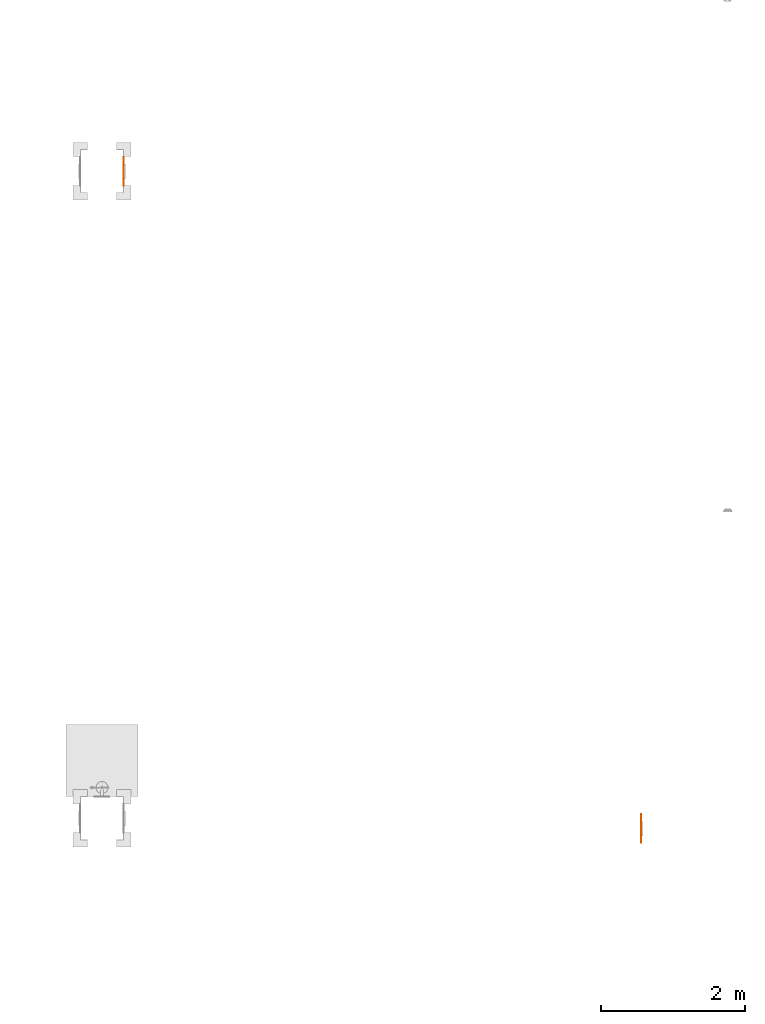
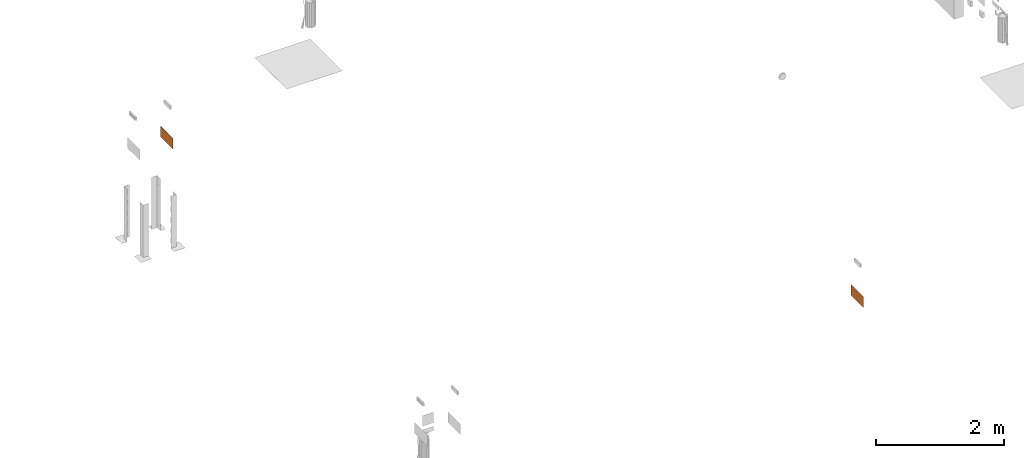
# One storey, part 95 of 119: 2 proxies.
"""IFC2X3 building model written with IfcOpenShell, lengths in metres."""

from ifc_helpers import new_model, entity, si_unit, converted_unit, derived_unit, direction, frame, frame_2d, origin, origin_2d_with_axis, place, context, subcontext, project, spatial, polyline, circle_curve, parameter, trimmed, segment, composite_curve, rectangle, outline, extrude, source, transform, mapped, material, material_list, type_object, type_shapes, element, save


model = new_model("IFC2X3")

# Units and contexts
model_context = context("Model", 3, precision=1e-05, world=origin(), true_north=direction((6.12303176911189e-17, 1.0)))
body_context = subcontext(model_context, "Body", "Model", "MODEL_VIEW")
ifc_project = project(units=[si_unit("LENGTHUNIT", "METRE"), si_unit("AREAUNIT", "SQUARE_METRE"), si_unit("VOLUMEUNIT", "CUBIC_METRE"), converted_unit("PLANEANGLEUNIT", "DEGREE", entity("IfcRatioMeasure", 0.0174532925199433), si_unit("PLANEANGLEUNIT", "RADIAN"), dimensions=[0, 0, 0, 0, 0, 0, 0]), si_unit("MASSUNIT", "GRAM", prefix="KILO"), derived_unit("MASSDENSITYUNIT", [(si_unit("MASSUNIT", "GRAM", prefix="KILO"), 1), (si_unit("LENGTHUNIT", "METRE"), -3)]), derived_unit("MOMENTOFINERTIAUNIT", [(si_unit("LENGTHUNIT", "METRE"), 4)]), si_unit("TIMEUNIT", "SECOND"), si_unit("FREQUENCYUNIT", "HERTZ"), si_unit("THERMODYNAMICTEMPERATUREUNIT", "DEGREE_CELSIUS"), derived_unit("THERMALTRANSMITTANCEUNIT", [(si_unit("MASSUNIT", "GRAM", prefix="KILO"), 1), (si_unit("THERMODYNAMICTEMPERATUREUNIT", "KELVIN"), -1), (si_unit("TIMEUNIT", "SECOND"), -3)]), derived_unit("VOLUMETRICFLOWRATEUNIT", [(si_unit("LENGTHUNIT", "METRE"), 3), (si_unit("TIMEUNIT", "SECOND"), -1)]), si_unit("ELECTRICCURRENTUNIT", "AMPERE"), si_unit("ELECTRICVOLTAGEUNIT", "VOLT"), si_unit("POWERUNIT", "WATT"), si_unit("FORCEUNIT", "NEWTON", prefix="KILO"), si_unit("ILLUMINANCEUNIT", "LUX"), si_unit("LUMINOUSFLUXUNIT", "LUMEN"), si_unit("LUMINOUSINTENSITYUNIT", "CANDELA"), derived_unit("USERDEFINED", [(si_unit("MASSUNIT", "GRAM", prefix="KILO"), -1), (si_unit("LENGTHUNIT", "METRE"), -2), (si_unit("TIMEUNIT", "SECOND"), 3), (si_unit("LUMINOUSFLUXUNIT", "LUMEN"), 1)]), derived_unit("LINEARVELOCITYUNIT", [(si_unit("LENGTHUNIT", "METRE"), 1), (si_unit("TIMEUNIT", "SECOND"), -1)]), si_unit("PRESSUREUNIT", "PASCAL"), derived_unit("USERDEFINED", [(si_unit("LENGTHUNIT", "METRE"), -2), (si_unit("MASSUNIT", "GRAM", prefix="KILO"), 1), (si_unit("TIMEUNIT", "SECOND"), -2)]), derived_unit("LINEARFORCEUNIT", [(si_unit("MASSUNIT", "GRAM", prefix="KILO"), 1), (si_unit("LENGTHUNIT", "METRE"), 1), (si_unit("TIMEUNIT", "SECOND"), -2), (si_unit("LENGTHUNIT", "METRE"), -1)]), derived_unit("PLANARFORCEUNIT", [(si_unit("MASSUNIT", "GRAM", prefix="KILO"), 1), (si_unit("LENGTHUNIT", "METRE"), 1), (si_unit("TIMEUNIT", "SECOND"), -2), (si_unit("LENGTHUNIT", "METRE"), -2)])], contexts=[model_context])

# Site, building, storey
site_placement = place(None, origin())
site = spatial("IfcSite", under=ifc_project, at=site_placement, Name="Default", CompositionType="ELEMENT")
building_placement = place(site_placement, origin())
building = spatial("IfcBuilding", under=site, at=building_placement, CompositionType="ELEMENT")
storey_placement = place(building_placement, origin())
storey = spatial("IfcBuildingStorey", under=building, at=storey_placement, Name="PAV. 01 - TÉRREO", CompositionType="ELEMENT", Elevation=0.0)

# Proxies
ifc_material_1 = material(Name="Plastico branco")
ifc_material_2 = material(Name="Plastico Verde")
ifc_material_list_1 = material_list([ifc_material_1, ifc_material_2])
building_element_proxy_type = type_object("IfcBuildingElementProxyType", Name="Sinalização de orientação - S02 - Indicação do sentido da saída de emergência esquerda:Distância 12m", PredefinedType="NOTDEFINED", material=ifc_material_1)
shared_shape = source(origin(), body_context, "Body", "SweptSolid", [
    extrude(outline(polyline([(-0.0269307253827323, -0.024231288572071), (-0.0259628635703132, -0.024231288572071), (-0.0248498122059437, -0.0234083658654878), (-0.0236286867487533, -0.0219305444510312), (-0.0223366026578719, -0.0199658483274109), (-0.0210106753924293, -0.0176823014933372), (-0.0159905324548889, -0.00832626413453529), (-0.0136800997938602, -0.00426313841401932), (-0.0125256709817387, -0.00238736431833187), (-0.0113513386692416, -0.000610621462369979), (-0.0101417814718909, 0.0010707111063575), (-0.00888166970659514, 0.00266026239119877), (-0.00754048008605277, 0.00417640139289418), (-0.00604105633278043, 0.00568273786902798), (-0.00429732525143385, 0.00725153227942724), (-0.00222321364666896, 0.00895504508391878), (0.000267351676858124, 0.010865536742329), (0.0161156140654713, 0.0220225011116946), (0.00541084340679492, 0.027666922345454), (0.004563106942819, 0.0280964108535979), (0.00398677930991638, 0.0283743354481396), (0.00361343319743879, 0.0285356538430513), (0.00337464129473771, 0.0286153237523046), (0.0032019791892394, 0.0286482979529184), (0.00303386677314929, 0.0286578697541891), (0.00283021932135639, 0.0286307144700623), (0.00255516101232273, 0.02854633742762), (0.00217281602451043, 0.0283842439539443), (0.00164730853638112, 0.0281239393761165), (0.000942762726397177, 0.0277449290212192), (-0.0154440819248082, 0.0179800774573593), (-0.0169906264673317, 0.0173662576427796), (-0.0184263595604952, 0.0170104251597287), (-0.0197467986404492, 0.0168906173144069), (-0.0209474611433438, 0.0169848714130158), (-0.0220238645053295, 0.017271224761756), (-0.0229715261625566, 0.0177277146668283), (-0.0237859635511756, 0.0183323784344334), (-0.0244626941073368, 0.0190632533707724), (-0.0249972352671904, 0.0198983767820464), (-0.025385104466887, 0.0208157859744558), (-0.0256218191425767, 0.0217935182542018), (-0.02570289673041, 0.0228096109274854), (-0.0256238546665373, 0.023842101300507), (-0.0253802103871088, 0.024869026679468), (-0.024967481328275, 0.0258684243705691), (-0.0243811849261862, 0.026818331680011), (-0.0236168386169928, 0.0276967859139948), (-0.022669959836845, 0.0284818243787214), (-0.012358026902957, 0.0349145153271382), (-0.0056365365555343, 0.0389186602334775), (-0.00143098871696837, 0.0410123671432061), (0.00133311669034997, 0.0417137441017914), (0.00371952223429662, 0.0415365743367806), (0.00635115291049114, 0.0408174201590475), (0.00926485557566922, 0.0396572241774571), (0.0124569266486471, 0.0381406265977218), (0.0382522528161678, 0.0245317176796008), (0.0409647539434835, 0.0230291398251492), (0.0432264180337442, 0.021505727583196), (0.0450948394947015, 0.0197223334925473), (0.0466276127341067, 0.0174398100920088), (0.0478823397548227, 0.0144190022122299), (0.0489477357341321, 0.0103891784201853), (0.0500145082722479, 0.00497609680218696), (0.0529984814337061, -0.0115815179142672), (0.0687826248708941, -0.0199385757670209), (0.101976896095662, 0.0427561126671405), (0.00232291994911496, 0.0955188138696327), (-0.0513007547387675, -0.00576130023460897), (-0.0561261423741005, -0.00320645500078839), (-0.0853051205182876, -0.0156605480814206), (-0.0628396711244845, -0.0275550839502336), (-0.0734521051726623, -0.0475990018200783), (-0.0904241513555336, -0.0529832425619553), (-0.0204118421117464, -0.0900518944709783), (-0.00292720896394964, -0.0849390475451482), (0.0122206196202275, -0.0929592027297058), (-0.00693758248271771, -0.0971859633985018), (0.00953030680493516, -0.105905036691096), (0.0262018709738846, -0.100361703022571), (0.0628213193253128, -0.0311978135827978), (0.0451218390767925, -0.0218302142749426), (0.0436304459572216, -0.0209809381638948), (0.0424868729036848, -0.020192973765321), (0.041614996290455, -0.0193663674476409), (0.0409386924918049, -0.0184011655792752), (0.0403818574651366, -0.0171974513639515), (0.0398810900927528, -0.0156792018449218), (0.0394075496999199, -0.0138354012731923), (0.0389382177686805, -0.0116659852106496), (0.0366426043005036, 0.000269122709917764), (0.0172569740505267, -0.0138624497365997), (0.0147941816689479, -0.0880984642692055), (-0.000353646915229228, -0.0800783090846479), (-0.000324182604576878, -0.0142849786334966), (-0.0124368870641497, -0.0319051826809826), (-0.0138384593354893, -0.0341119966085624), (-0.0151491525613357, -0.0360250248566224), (-0.0164165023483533, -0.0376353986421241), (-0.0176880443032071, -0.0389342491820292), (-0.0190113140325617, -0.0399127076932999), (-0.0204338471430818, -0.0405619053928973), (-0.0220031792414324, -0.0408729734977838), (-0.0237668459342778, -0.0408370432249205), (-0.025772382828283, -0.0404452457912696), (-0.0280673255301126, -0.0396887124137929), (-0.0306992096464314, -0.0385585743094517), (-0.0337155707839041, -0.0370459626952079), (-0.0714172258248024, -0.0170844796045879), (-0.0536029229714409, -0.0101094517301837), (-0.0269307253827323, -0.024231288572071)]), holes=[composite_curve([segment(trimmed(circle_curve(frame_2d((0.0517161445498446, 0.0359195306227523), x_axis=(0.883770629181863, -0.46792037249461)), 0.0134), [parameter(180.0)], [parameter(360.0)], True, "PARAMETER"), False, "CONTINUOUS"), segment(trimmed(circle_curve(frame_2d((0.0517161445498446, 0.0359195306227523), x_axis=(0.883770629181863, -0.46792037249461)), 0.0134), [parameter(2.03555499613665e-13)], [parameter(180.0)], True, "PARAMETER"), False, "CONTINUOUS")], self_intersect=False)]), frame((0.112957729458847, -0.00110000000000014, 1.90431633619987), z_axis=(0.0, 1.0, 0.0), x_axis=(-0.883770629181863, 0.0, 0.46792037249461)), (0.0, 0.0, 1.0), 0.0011),
    extrude(outline(polyline([(-0.197500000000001, -0.102500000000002), (0.197500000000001, -0.102500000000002), (0.197500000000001, 0.102500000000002), (-0.197500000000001, 0.102500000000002), (-0.197500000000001, -0.102500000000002)]), holes=[polyline([(-0.190000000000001, -0.0950000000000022), (-0.190000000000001, 0.0949999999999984), (0.189999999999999, 0.0949999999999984), (0.189999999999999, -0.0950000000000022), (-0.190000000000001, -0.0950000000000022)])]), frame((0.0, -0.0011, 1.9025), z_axis=(0.0, 1.0, 0.0), x_axis=(1.0, 0.0, 0.0)), (0.0, 0.0, 1.0), 0.0011),
    extrude(rectangle(XDim=0.38, YDim=0.001, at=origin_2d_with_axis()), frame((0.0, -0.0005, 1.8075)), (0.0, 0.0, 1.0), 0.190000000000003),
    extrude(outline(polyline([(-0.0341511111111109, -0.0575999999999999), (0.016628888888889, -0.0575999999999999), (-0.0218311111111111, -0.0191399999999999), (0.0852288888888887, -0.0191399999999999), (0.0852288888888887, 0.0191400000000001), (-0.0218311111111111, 0.0191400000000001), (0.016628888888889, 0.0576000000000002), (-0.0341511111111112, 0.0576000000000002), (-0.0917511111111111, 0.0), (-0.0341511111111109, -0.0575999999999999)])), frame((-0.0852288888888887, -0.0011, 1.9025), z_axis=(0.0, 1.0, 0.0), x_axis=(1.0, 0.0, 0.0)), (0.0, 0.0, 1.0), 0.0011),
])
type_shapes(building_element_proxy_type, [shared_shape])
proxy_1_placement = place(storey_placement, frame((73.6740605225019, 13.7833819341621, 0.0), z_axis=(0.0, 0.0, 1.0), x_axis=(0.0, 1.0, 0.0)))
element("IfcBuildingElementProxy", 1, at=proxy_1_placement, inside=storey, type_object=building_element_proxy_type, material=ifc_material_list_1, Name="Sinalização de orientação - S02 - Indicação do sentido da saída de emergência esquerda:Distância 12m", ObjectType="Sinalização de orientação - S02 - Indicação do sentido da saída de emergência esquerda:Distância 12m", context=body_context, shape_type="MappedRepresentation", body=[
    mapped(shared_shape, transform((0.0, 0.0, 0.0), scale=1.0)),
])
ifc_material_list_2 = material_list([ifc_material_1, ifc_material_2])
proxy_2_placement = place(storey_placement, frame((66.4737997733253, 22.9250290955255, 0.0), z_axis=(0.0, 0.0, 1.0), x_axis=(0.0, 1.0, 0.0)))
element("IfcBuildingElementProxy", 2, at=proxy_2_placement, inside=storey, type_object=building_element_proxy_type, material=ifc_material_list_2, Name="Sinalização de orientação - S02 - Indicação do sentido da saída de emergência esquerda:Distância 12m", ObjectType="Sinalização de orientação - S02 - Indicação do sentido da saída de emergência esquerda:Distância 12m", context=body_context, shape_type="MappedRepresentation", body=[
    mapped(shared_shape, transform((0.0, 0.0, 0.0), scale=1.0)),
])

save(model, "model.ifc")
